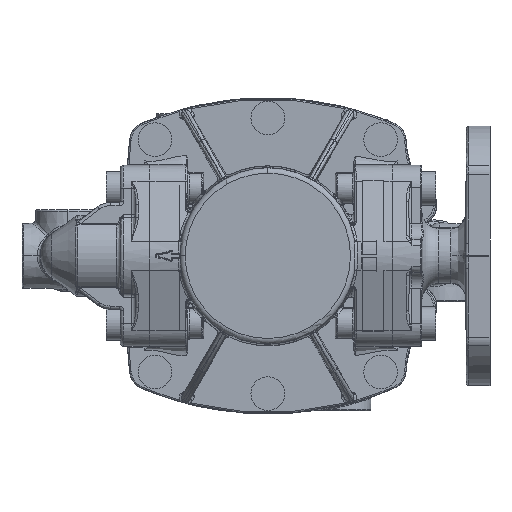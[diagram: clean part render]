
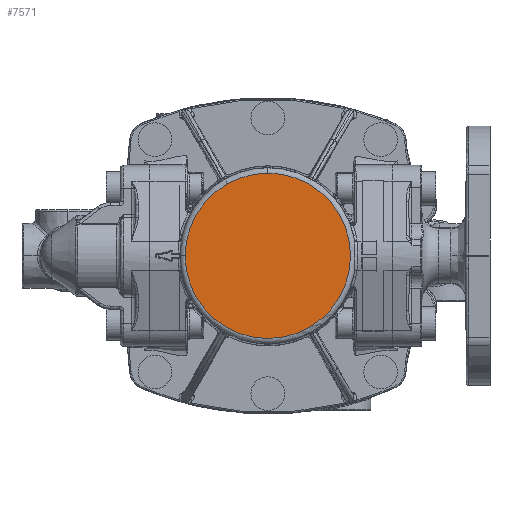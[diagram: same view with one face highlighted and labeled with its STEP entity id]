
A CAD part, left-side view. The second image highlights one B-rep face of the part: STEP entity #7571.
In plain terms, the highlighted planar face has unit normal (-1, 0, 0).
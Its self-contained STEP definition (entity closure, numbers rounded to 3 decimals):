
#4285=CIRCLE('',#51277,30.59);
#4873=CIRCLE('',#52200,30.59);
#7571=ADVANCED_FACE('',(#11187),#8883,.T.);
#8883=PLANE('',#52202);
#11187=FACE_OUTER_BOUND('',#14324,.T.);
#14324=EDGE_LOOP('',(#29186,#29187));
#29186=ORIENTED_EDGE('',*,*,#43978,.T.);
#29187=ORIENTED_EDGE('',*,*,#42362,.T.);
#36409=VERTEX_POINT('',#135198);
#36410=VERTEX_POINT('',#135200);
#42362=EDGE_CURVE('',#36410,#36409,#4285,.T.);
#43978=EDGE_CURVE('',#36409,#36410,#4873,.T.);
#51277=AXIS2_PLACEMENT_3D('',#135199,#58461,#58462);
#52200=AXIS2_PLACEMENT_3D('',#172217,#60589,#60590);
#52202=AXIS2_PLACEMENT_3D('',#172219,#60593,#60594);
#58461=DIRECTION('',(-1.,0.,0.));
#58462=DIRECTION('',(0.,1.,0.));
#60589=DIRECTION('',(-1.,0.,0.));
#60590=DIRECTION('',(0.,0.,1.));
#60593=DIRECTION('',(-1.,0.,0.));
#60594=DIRECTION('',(0.,0.,1.));
#135198=CARTESIAN_POINT('',(-122.012,0.,30.59));
#135199=CARTESIAN_POINT('',(-122.012,0.,0.));
#135200=CARTESIAN_POINT('',(-122.012,30.59,0.));
#172217=CARTESIAN_POINT('',(-122.012,0.,0.));
#172219=CARTESIAN_POINT('',(-122.012,0.,0.));
